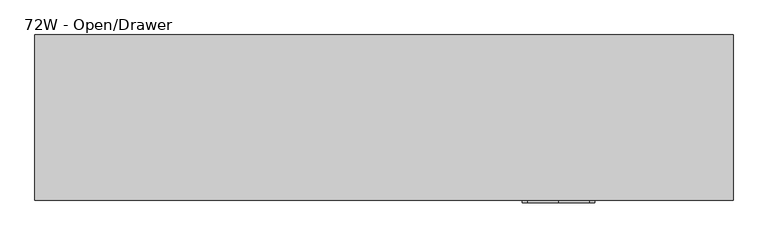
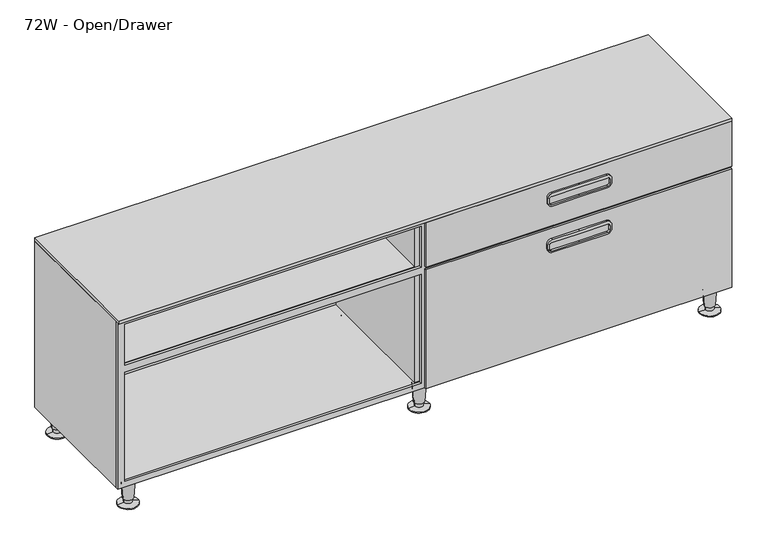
"""IFC4 building model written with IfcOpenShell, lengths in millimetres: furniture geometry, Steelcase - C Scape - Low Storage - 1.5 High - 60W and 72W : 72W - Open/Drawer."""

from ifc_helpers import new_model, si_unit, point, frame, frame_2d, origin, place, context, project, spatial, polyline, circle_curve, trimmed, segment, composite_curve, outline, extrude, faceted_brep, source, transform, mapped, element, save
from ifc_brep_helpers import plane_surface, cylinder_surface, revolved_surface, advanced_brep


def furniture_72w_open_drawer_6f4cbbca(model_context):
    return source(origin(), model_context, "Body", "SolidModel", [
        extrude(outline(polyline([(76.1508625, -305.435), (76.1508625, 1523.365), (599.4400097, 1523.365), (599.4400097, 609.532594), (599.4400097, -305.435), (76.1508625, -305.435)]), holes=[polyline([(92.7100024, 600.0410976), (92.7100024, -283.4617676), (436.8800097, -283.4617676), (436.8800097, 600.0410976), (92.7100024, 600.0410976)]), polyline([(588.9625, -283.4617676), (588.9625, 600.0410976), (458.7240097, 600.0410976), (458.7240097, -283.4617676), (588.9625, -283.4617676)]), polyline([(436.8800097, 617.8889024), (436.8800097, 1501.3917676), (92.7100024, 1501.3917676), (92.7100024, 617.8889024), (436.8800097, 617.8889024)]), polyline([(588.9625, 1501.3917676), (458.7240097, 1501.3917676), (458.7240097, 617.8889024), (588.9625, 617.8889024), (588.9625, 1501.3917676)])]), frame((0.0, -426.7186111, 0.0), z_axis=(0.0, 1.0, 0.0), x_axis=(0.0, 0.0, 1.0)), (0.0, 0.0, 1.0), 7.3648883),
        extrude(outline(polyline([(631.5075126, -9.525), (1501.3917676, -9.525), (1501.3917676, -415.2912402), (631.5075126, -415.2912402), (631.5075126, -9.525)])), frame((0.0, 0.0, 436.8800097), z_axis=(0.0, 0.0, 1.0), x_axis=(1.0, 0.0, 0.0)), (0.0, 0.0, 1.0), 21.844),
        extrude(outline(polyline([(586.4224874, -415.2912402), (-283.4617676, -415.2912402), (-283.4617676, -9.525), (586.4224874, -9.525), (586.4224874, -415.2912402)])), frame((0.0, 0.0, 436.8800097), z_axis=(0.0, 0.0, 1.0), x_axis=(1.0, 0.0, 0.0)), (0.0, 0.0, 1.0), 21.844),
        extrude(outline(composite_curve([segment(trimmed(circle_curve(frame_2d((406.3999879, 983.9320892)), 12.7), [point((419.0999879, 983.9320892))], [point((406.3999879, 971.2320892))], False, "CARTESIAN"), True, "CONTINUOUS"), segment(polyline([(406.3999879, 971.2320892), (391.795017, 971.2320892)]), True, "CONTINUOUS"), segment(trimmed(circle_curve(frame_2d((391.795017, 983.9320892)), 12.7), [point((391.795017, 971.2320892))], [point((379.095017, 983.9320892))], False, "CARTESIAN"), True, "CONTINUOUS"), segment(polyline([(379.095017, 983.9320892), (379.095017, 1066.164845), (379.095017, 1148.3976007)]), True, "CONTINUOUS"), segment(trimmed(circle_curve(frame_2d((391.795017, 1148.3976007)), 12.7), [point((379.095017, 1148.3976007))], [point((391.795017, 1161.0976007))], False, "CARTESIAN"), True, "CONTINUOUS"), segment(polyline([(391.795017, 1161.0976007), (406.3999879, 1161.0976007)]), True, "CONTINUOUS"), segment(trimmed(circle_curve(frame_2d((406.3999879, 1148.3976007)), 12.7), [point((406.3999879, 1161.0976007))], [point((419.0999879, 1148.3976007))], False, "CARTESIAN"), True, "CONTINUOUS"), segment(polyline([(419.0999879, 1148.3976007), (419.0999879, 1066.164845), (419.0999879, 983.9320892)]), True, "CONTINUOUS")], self_intersect=False), holes=[composite_curve([segment(trimmed(circle_curve(frame_2d((402.9710063, 982.4097015)), 6.35), [point((402.9710063, 976.0597015))], [point((409.3210063, 982.4097015))], True, "CARTESIAN"), True, "CONTINUOUS"), segment(polyline([(409.3210063, 982.4097015), (409.3210063, 1066.164845), (409.3210063, 1149.9199884)]), True, "CONTINUOUS"), segment(trimmed(circle_curve(frame_2d((402.9710063, 1149.9199884)), 6.35), [point((409.3210063, 1149.9199884))], [point((402.9710063, 1156.2699884))], True, "CARTESIAN"), True, "CONTINUOUS"), segment(polyline([(402.9710063, 1156.2699884), (390.2709942, 1156.2699884)]), True, "CONTINUOUS"), segment(trimmed(circle_curve(frame_2d((390.2709942, 1149.9199884)), 6.35), [point((390.2709942, 1156.2699884))], [point((383.9209942, 1149.9199884))], True, "CARTESIAN"), True, "CONTINUOUS"), segment(polyline([(383.9209942, 1149.9199884), (383.9209942, 1066.164845), (383.9209942, 982.4097015)]), True, "CONTINUOUS"), segment(trimmed(circle_curve(frame_2d((390.2709942, 982.4097015)), 6.35), [point((383.9209942, 982.4097015))], [point((390.2709942, 976.0597015))], True, "CARTESIAN"), True, "CONTINUOUS"), segment(polyline([(390.2709942, 976.0597015), (402.9710063, 976.0597015)]), True, "CONTINUOUS")], self_intersect=False)]), frame((0.0, -439.42, 0.0), z_axis=(0.0, 1.0, 0.0), x_axis=(0.0, 0.0, 1.0)), (0.0, 0.0, 1.0), 6.35),
        extrude(outline(polyline([(609.5996899, -426.7186111), (1522.73, -426.7186111), (1522.73, -433.07), (609.5996899, -433.07), (609.5996899, -426.7186111)])), frame((0.0, 0.0, 458.7240097), z_axis=(0.0, 0.0, 1.0), x_axis=(1.0, 0.0, 0.0)), (0.0, 0.0, 1.0), 140.716),
        faceted_brep([(-283.4617676, -419.3537227, 92.7100024), (1501.3917676, -419.3537227, 92.7100024), (1501.3917676, -9.525, 92.7100024), (631.5075126, -9.525, 92.7100024), (631.5075126, -415.2912402, 92.7100024), (586.4224874, -415.2912402, 92.7100024), (586.4224874, -9.525, 92.7100024), (-283.4617676, -9.525, 92.7100024), (1523.365, 0.0, 76.2), (1523.365, -419.3537227, 76.2), (-305.435, -419.3537227, 76.2), (-305.435, 0.0, 76.2), (-283.4630912, -419.3537227, 599.4400097), (-305.435, -419.3537227, 599.4400097), (1523.365, -419.3537227, 599.4400097), (1501.3917676, -419.3537227, 599.4400097), (-305.435, 0.0, 599.4400097), (1523.365, 0.0, 599.4400097), (-283.4630912, -9.525, 599.4400097), (586.4224874, -9.525, 599.4400097), (586.4224874, -415.2912402, 599.4400097), (631.5075126, -415.2912402, 599.4400097), (631.5075126, -9.525, 599.4400097), (1501.3917676, -9.525, 599.4400097)], [[[0, 1, 2, 3, 4, 5, 6, 7]], [[8, 9, 10, 11]], [[1, 0, 12, 13, 10, 9, 14, 15]], [[8, 11, 16, 17]], [[16, 13, 12, 18, 19, 20, 21, 22, 23, 15, 14, 17]], [[13, 16, 11, 10]], [[18, 12, 0, 7]], [[19, 18, 7, 6]], [[20, 19, 6, 5]], [[22, 21, 4, 3]], [[23, 22, 3, 2]], [[15, 23, 2, 1]], [[17, 14, 9, 8]], [[21, 20, 5, 4]]]),
        advanced_brep(
        [(579.8539515, -29.9489775, 0.0), (638.0760485, -38.8569507, 0.0), (608.965, -34.4029641, 0.0), (579.8539515, -29.9489775, 2.5119506), (638.0760485, -38.8569507, 2.5119506), (597.202835, -32.6033544, 5.7545598), (620.727165, -36.2025738, 5.7545598), (596.5140655, -32.4979728, 19.05), (621.4159345, -36.3079555, 19.05), (594.0844786, -32.1262463, 19.05), (623.8455214, -36.6796819, 19.05), (590.1341305, -31.5218435, 76.2), (627.7958695, -37.2840847, 76.2), (608.965, -34.4029641, 76.2)],
        [
            (0, 1, circle_curve(frame((608.965, -34.4029641, 0.0), z_axis=(0.0, 0.0, -1.0), x_axis=(0.0, -1.0, 0.0)), 29.4498071)),
            (1, 2),
            (2, 0),
            (1, 0, circle_curve(frame((608.965, -34.4029641, 0.0), z_axis=(0.0, 0.0, -1.0), x_axis=(0.0, -1.0, 0.0)), 29.4498071)),
            (3, 4, circle_curve(frame((608.965, -34.4029641, 2.5119506), z_axis=(0.0, 0.0, -1.0), x_axis=(0.0, -1.0, 0.0)), 29.4498071)),
            (4, 1),
            (0, 3),
            (4, 3, circle_curve(frame((608.965, -34.4029641, 2.5119506), z_axis=(0.0, 0.0, -1.0), x_axis=(0.0, -1.0, 0.0)), 29.4498071)),
            (5, 6, circle_curve(frame((608.965, -34.4029641, 5.7545598), z_axis=(0.0, 0.0, -1.0), x_axis=(0.0, -1.0, 0.0)), 11.8990387)),
            (6, 4),
            (3, 5),
            (6, 5, circle_curve(frame((608.965, -34.4029641, 5.7545598), z_axis=(0.0, 0.0, -1.0), x_axis=(0.0, -1.0, 0.0)), 11.8990387)),
            (7, 8, circle_curve(frame((608.965, -34.4029641, 19.05), z_axis=(0.0, 0.0, -1.0), x_axis=(0.0, -1.0, 0.0)), 12.5958232)),
            (8, 6),
            (5, 7),
            (8, 7, circle_curve(frame((608.965, -34.4029641, 19.05), z_axis=(0.0, 0.0, -1.0), x_axis=(0.0, -1.0, 0.0)), 12.5958232)),
            (9, 10, circle_curve(frame((608.965, -34.4029641, 19.05), z_axis=(0.0, 0.0, -1.0), x_axis=(0.0, -1.0, 0.0)), 15.0536827)),
            (10, 8),
            (7, 9),
            (10, 9, circle_curve(frame((608.965, -34.4029641, 19.05), z_axis=(0.0, 0.0, -1.0), x_axis=(0.0, -1.0, 0.0)), 15.0536827)),
            (11, 12, circle_curve(frame((608.965, -34.4029641, 76.2), z_axis=(0.0, 0.0, -1.0), x_axis=(0.0, -1.0, 0.0)), 19.05)),
            (12, 10),
            (9, 11),
            (12, 11, circle_curve(frame((608.965, -34.4029641, 76.2), z_axis=(0.0, 0.0, -1.0), x_axis=(0.0, -1.0, 0.0)), 19.05)),
            (13, 12),
            (11, 13),
        ],
        [
            plane_surface(frame((608.965, -34.4029641, 0.0), z_axis=(0.0, 0.0, -1.0), x_axis=(0.0, -1.0, 0.0))),
            cylinder_surface(frame((608.965, -34.4029641, 25.4), z_axis=(0.0, 0.0, 1.0), x_axis=(0.0, -1.0, 0.0)), 29.4498071),
            revolved_surface(polyline([(608.965, -63.8527712, 2.5119506), (608.965, -46.3020028, 5.7545598)]), (608.965, -34.4029641, 25.4), (0.0, 0.0, 1.0)),
            revolved_surface(polyline([(608.965, -46.3020028, 5.7545598), (608.965, -46.9987873, 19.05)]), (608.965, -34.4029641, 25.4), (0.0, 0.0, 1.0)),
            plane_surface(frame((608.965, -34.4029641, 19.05), z_axis=(0.0, 0.0, -1.0), x_axis=(0.0, -1.0, 0.0))),
            revolved_surface(polyline([(608.965, -49.4566468, 19.05), (608.965, -53.4529641, 76.2)]), (608.965, -34.4029641, 25.4), (0.0, 0.0, 1.0)),
            plane_surface(frame((608.965, -34.4029641, 76.2), z_axis=(0.0, 0.0, 1.0), x_axis=(0.0, -1.0, 0.0))),
        ],
        [
            (0, [[1, 2, 3]]),
            (0, [[4, -3, -2]]),
            (1, [[5, 6, -1, 7]]),
            (1, [[8, -7, -4, -6]]),
            (2, [[9, 10, -5, 11]]),
            (2, [[12, -11, -8, -10]]),
            (3, [[13, 14, -9, 15]]),
            (3, [[16, -15, -12, -14]]),
            (4, [[17, 18, -13, 19]]),
            (4, [[20, -19, -16, -18]]),
            (5, [[21, 22, -17, 23]]),
            (5, [[24, -23, -20, -22]]),
            (6, [[25, -21, 26]]),
            (6, [[-26, -24, -25]]),
        ],
    ),
        advanced_brep(
        [(579.8539515, -395.5974102, 0.0), (638.0760485, -404.5053834, 0.0), (608.965, -400.0513968, 0.0), (579.8539515, -395.5974102, 2.5119506), (638.0760485, -404.5053834, 2.5119506), (597.202835, -398.2517871, 5.7545598), (620.727165, -401.8510065, 5.7545598), (596.5140655, -398.1464055, 19.05), (621.4159345, -401.9563882, 19.05), (594.0844786, -397.774679, 19.05), (623.8455214, -402.3281146, 19.05), (590.1341305, -397.1702762, 76.2), (627.7958695, -402.9325174, 76.2), (608.965, -400.0513968, 76.2)],
        [
            (0, 1, circle_curve(frame((608.965, -400.0513968, 0.0), z_axis=(0.0, 0.0, -1.0), x_axis=(0.0, -1.0, 0.0)), 29.4498071)),
            (1, 2),
            (2, 0),
            (1, 0, circle_curve(frame((608.965, -400.0513968, 0.0), z_axis=(0.0, 0.0, -1.0), x_axis=(0.0, -1.0, 0.0)), 29.4498071)),
            (3, 4, circle_curve(frame((608.965, -400.0513968, 2.5119506), z_axis=(0.0, 0.0, -1.0), x_axis=(0.0, -1.0, 0.0)), 29.4498071)),
            (4, 1),
            (0, 3),
            (4, 3, circle_curve(frame((608.965, -400.0513968, 2.5119506), z_axis=(0.0, 0.0, -1.0), x_axis=(0.0, -1.0, 0.0)), 29.4498071)),
            (5, 6, circle_curve(frame((608.965, -400.0513968, 5.7545598), z_axis=(0.0, 0.0, -1.0), x_axis=(0.0, -1.0, 0.0)), 11.8990387)),
            (6, 4),
            (3, 5),
            (6, 5, circle_curve(frame((608.965, -400.0513968, 5.7545598), z_axis=(0.0, 0.0, -1.0), x_axis=(0.0, -1.0, 0.0)), 11.8990387)),
            (7, 8, circle_curve(frame((608.965, -400.0513968, 19.05), z_axis=(0.0, 0.0, -1.0), x_axis=(0.0, -1.0, 0.0)), 12.5958232)),
            (8, 6),
            (5, 7),
            (8, 7, circle_curve(frame((608.965, -400.0513968, 19.05), z_axis=(0.0, 0.0, -1.0), x_axis=(0.0, -1.0, 0.0)), 12.5958232)),
            (9, 10, circle_curve(frame((608.965, -400.0513968, 19.05), z_axis=(0.0, 0.0, -1.0), x_axis=(0.0, -1.0, 0.0)), 15.0536827)),
            (10, 8),
            (7, 9),
            (10, 9, circle_curve(frame((608.965, -400.0513968, 19.05), z_axis=(0.0, 0.0, -1.0), x_axis=(0.0, -1.0, 0.0)), 15.0536827)),
            (11, 12, circle_curve(frame((608.965, -400.0513968, 76.2), z_axis=(0.0, 0.0, -1.0), x_axis=(0.0, -1.0, 0.0)), 19.05)),
            (12, 10),
            (9, 11),
            (12, 11, circle_curve(frame((608.965, -400.0513968, 76.2), z_axis=(0.0, 0.0, -1.0), x_axis=(0.0, -1.0, 0.0)), 19.05)),
            (13, 12),
            (11, 13),
        ],
        [
            plane_surface(frame((608.965, -400.0513968, 0.0), z_axis=(0.0, 0.0, -1.0), x_axis=(0.0, -1.0, 0.0))),
            cylinder_surface(frame((608.965, -400.0513968, 25.4), z_axis=(0.0, 0.0, 1.0), x_axis=(0.0, -1.0, 0.0)), 29.4498071),
            revolved_surface(polyline([(608.965, -429.5012039, 2.5119506), (608.965, -411.9504355, 5.7545598)]), (608.965, -400.0513968, 25.4), (0.0, 0.0, 1.0)),
            revolved_surface(polyline([(608.965, -411.9504355, 5.7545598), (608.965, -412.64722, 19.05)]), (608.965, -400.0513968, 25.4), (0.0, 0.0, 1.0)),
            plane_surface(frame((608.965, -400.0513968, 19.05), z_axis=(0.0, 0.0, -1.0), x_axis=(0.0, -1.0, 0.0))),
            revolved_surface(polyline([(608.965, -415.1050795, 19.05), (608.965, -419.1013968, 76.2)]), (608.965, -400.0513968, 25.4), (0.0, 0.0, 1.0)),
            plane_surface(frame((608.965, -400.0513968, 76.2), z_axis=(0.0, 0.0, 1.0), x_axis=(0.0, -1.0, 0.0))),
        ],
        [
            (0, [[1, 2, 3]]),
            (0, [[4, -3, -2]]),
            (1, [[5, 6, -1, 7]]),
            (1, [[8, -7, -4, -6]]),
            (2, [[9, 10, -5, 11]]),
            (2, [[12, -11, -8, -10]]),
            (3, [[13, 14, -9, 15]]),
            (3, [[16, -15, -12, -14]]),
            (4, [[17, 18, -13, 19]]),
            (4, [[20, -19, -16, -18]]),
            (5, [[21, 22, -17, 23]]),
            (5, [[24, -23, -20, -22]]),
            (6, [[25, -21, 26]]),
            (6, [[-26, -24, -25]]),
        ],
    ),
        extrude(outline(composite_curve([segment(trimmed(circle_curve(frame_2d((552.4499879, 983.9320892)), 12.7), [point((565.1499879, 983.9320892))], [point((552.4499879, 971.2320892))], False, "CARTESIAN"), True, "CONTINUOUS"), segment(polyline([(552.4499879, 971.2320892), (537.845017, 971.2320892)]), True, "CONTINUOUS"), segment(trimmed(circle_curve(frame_2d((537.845017, 983.9320892)), 12.7), [point((537.845017, 971.2320892))], [point((525.145017, 983.9320892))], False, "CARTESIAN"), True, "CONTINUOUS"), segment(polyline([(525.145017, 983.9320892), (525.145017, 1066.164845), (525.145017, 1148.3976007)]), True, "CONTINUOUS"), segment(trimmed(circle_curve(frame_2d((537.845017, 1148.3976007)), 12.7), [point((525.145017, 1148.3976007))], [point((537.845017, 1161.0976007))], False, "CARTESIAN"), True, "CONTINUOUS"), segment(polyline([(537.845017, 1161.0976007), (552.4499879, 1161.0976007)]), True, "CONTINUOUS"), segment(trimmed(circle_curve(frame_2d((552.4499879, 1148.3976007)), 12.7), [point((552.4499879, 1161.0976007))], [point((565.1499879, 1148.3976007))], False, "CARTESIAN"), True, "CONTINUOUS"), segment(polyline([(565.1499879, 1148.3976007), (565.1499879, 1066.164845), (565.1499879, 983.9320892)]), True, "CONTINUOUS")], self_intersect=False), holes=[composite_curve([segment(trimmed(circle_curve(frame_2d((549.0210063, 982.4097015)), 6.35), [point((549.0210063, 976.0597015))], [point((555.3710063, 982.4097015))], True, "CARTESIAN"), True, "CONTINUOUS"), segment(polyline([(555.3710063, 982.4097015), (555.3710063, 1066.164845), (555.3710063, 1149.9199884)]), True, "CONTINUOUS"), segment(trimmed(circle_curve(frame_2d((549.0210063, 1149.9199884)), 6.35), [point((555.3710063, 1149.9199884))], [point((549.0210063, 1156.2699884))], True, "CARTESIAN"), True, "CONTINUOUS"), segment(polyline([(549.0210063, 1156.2699884), (536.3209942, 1156.2699884)]), True, "CONTINUOUS"), segment(trimmed(circle_curve(frame_2d((536.3209942, 1149.9199884)), 6.35), [point((536.3209942, 1156.2699884))], [point((529.9709942, 1149.9199884))], True, "CARTESIAN"), True, "CONTINUOUS"), segment(polyline([(529.9709942, 1149.9199884), (529.9709942, 1066.164845), (529.9709942, 982.4097015)]), True, "CONTINUOUS"), segment(trimmed(circle_curve(frame_2d((536.3209942, 982.4097015)), 6.35), [point((529.9709942, 982.4097015))], [point((536.3209942, 976.0597015))], True, "CARTESIAN"), True, "CONTINUOUS"), segment(polyline([(536.3209942, 976.0597015), (549.0210063, 976.0597015)]), True, "CONTINUOUS")], self_intersect=False)]), frame((0.0, -439.42, 0.0), z_axis=(0.0, 1.0, 0.0), x_axis=(0.0, 0.0, 1.0)), (0.0, 0.0, 1.0), 6.35),
        advanced_brep(
        [(1446.9075389, -29.9489775, 0.0), (1505.1296359, -38.8569507, 0.0), (1476.0185874, -34.4029641, 0.0), (1446.9075389, -29.9489775, 2.5119506), (1505.1296359, -38.8569507, 2.5119506), (1464.2564224, -32.6033544, 5.7545598), (1487.7807524, -36.2025738, 5.7545598), (1463.5676529, -32.4979728, 19.05), (1488.4695219, -36.3079555, 19.05), (1461.1380659, -32.1262463, 19.05), (1490.8991088, -36.6796819, 19.05), (1457.1877179, -31.5218435, 76.2), (1494.8494568, -37.2840847, 76.2), (1476.0185874, -34.4029641, 76.2)],
        [
            (0, 1, circle_curve(frame((1476.0185874, -34.4029641, 0.0), z_axis=(0.0, 0.0, -1.0), x_axis=(0.0, -1.0, 0.0)), 29.4498071)),
            (1, 2),
            (2, 0),
            (1, 0, circle_curve(frame((1476.0185874, -34.4029641, 0.0), z_axis=(0.0, 0.0, -1.0), x_axis=(0.0, -1.0, 0.0)), 29.4498071)),
            (3, 4, circle_curve(frame((1476.0185874, -34.4029641, 2.5119506), z_axis=(0.0, 0.0, -1.0), x_axis=(0.0, -1.0, 0.0)), 29.4498071)),
            (4, 1),
            (0, 3),
            (4, 3, circle_curve(frame((1476.0185874, -34.4029641, 2.5119506), z_axis=(0.0, 0.0, -1.0), x_axis=(0.0, -1.0, 0.0)), 29.4498071)),
            (5, 6, circle_curve(frame((1476.0185874, -34.4029641, 5.7545598), z_axis=(0.0, 0.0, -1.0), x_axis=(0.0, -1.0, 0.0)), 11.8990387)),
            (6, 4),
            (3, 5),
            (6, 5, circle_curve(frame((1476.0185874, -34.4029641, 5.7545598), z_axis=(0.0, 0.0, -1.0), x_axis=(0.0, -1.0, 0.0)), 11.8990387)),
            (7, 8, circle_curve(frame((1476.0185874, -34.4029641, 19.05), z_axis=(0.0, 0.0, -1.0), x_axis=(0.0, -1.0, 0.0)), 12.5958232)),
            (8, 6),
            (5, 7),
            (8, 7, circle_curve(frame((1476.0185874, -34.4029641, 19.05), z_axis=(0.0, 0.0, -1.0), x_axis=(0.0, -1.0, 0.0)), 12.5958232)),
            (9, 10, circle_curve(frame((1476.0185874, -34.4029641, 19.05), z_axis=(0.0, 0.0, -1.0), x_axis=(0.0, -1.0, 0.0)), 15.0536827)),
            (10, 8),
            (7, 9),
            (10, 9, circle_curve(frame((1476.0185874, -34.4029641, 19.05), z_axis=(0.0, 0.0, -1.0), x_axis=(0.0, -1.0, 0.0)), 15.0536827)),
            (11, 12, circle_curve(frame((1476.0185874, -34.4029641, 76.2), z_axis=(0.0, 0.0, -1.0), x_axis=(0.0, -1.0, 0.0)), 19.05)),
            (12, 10),
            (9, 11),
            (12, 11, circle_curve(frame((1476.0185874, -34.4029641, 76.2), z_axis=(0.0, 0.0, -1.0), x_axis=(0.0, -1.0, 0.0)), 19.05)),
            (13, 12),
            (11, 13),
        ],
        [
            plane_surface(frame((1476.0185874, -34.4029641, 0.0), z_axis=(0.0, 0.0, -1.0), x_axis=(0.0, -1.0, 0.0))),
            cylinder_surface(frame((1476.0185874, -34.4029641, 25.4), z_axis=(0.0, 0.0, 1.0), x_axis=(0.0, -1.0, 0.0)), 29.4498071),
            revolved_surface(polyline([(1476.0185874, -63.8527712, 2.5119506), (1476.0185874, -46.3020028, 5.7545598)]), (1476.0185874, -34.4029641, 25.4), (0.0, 0.0, 1.0)),
            revolved_surface(polyline([(1476.0185874, -46.3020028, 5.7545598), (1476.0185874, -46.9987873, 19.05)]), (1476.0185874, -34.4029641, 25.4), (0.0, 0.0, 1.0)),
            plane_surface(frame((1476.0185874, -34.4029641, 19.05), z_axis=(0.0, 0.0, -1.0), x_axis=(0.0, -1.0, 0.0))),
            revolved_surface(polyline([(1476.0185874, -49.4566468, 19.05), (1476.0185874, -53.4529641, 76.2)]), (1476.0185874, -34.4029641, 25.4), (0.0, 0.0, 1.0)),
            plane_surface(frame((1476.0185874, -34.4029641, 76.2), z_axis=(0.0, 0.0, 1.0), x_axis=(0.0, -1.0, 0.0))),
        ],
        [
            (0, [[1, 2, 3]]),
            (0, [[4, -3, -2]]),
            (1, [[5, 6, -1, 7]]),
            (1, [[8, -7, -4, -6]]),
            (2, [[9, 10, -5, 11]]),
            (2, [[12, -11, -8, -10]]),
            (3, [[13, 14, -9, 15]]),
            (3, [[16, -15, -12, -14]]),
            (4, [[17, 18, -13, 19]]),
            (4, [[20, -19, -16, -18]]),
            (5, [[21, 22, -17, 23]]),
            (5, [[24, -23, -20, -22]]),
            (6, [[25, -21, 26]]),
            (6, [[-26, -24, -25]]),
        ],
    ),
        advanced_brep(
        [(1446.9075389, -395.5974102, 0.0), (1505.1296359, -404.5053834, 0.0), (1476.0185874, -400.0513968, 0.0), (1446.9075389, -395.5974102, 2.5119506), (1505.1296359, -404.5053834, 2.5119506), (1464.2564224, -398.2517871, 5.7545598), (1487.7807524, -401.8510065, 5.7545598), (1463.5676529, -398.1464055, 19.05), (1488.4695219, -401.9563882, 19.05), (1461.1380659, -397.774679, 19.05), (1490.8991088, -402.3281146, 19.05), (1457.1877179, -397.1702762, 76.2), (1494.8494568, -402.9325174, 76.2), (1476.0185874, -400.0513968, 76.2)],
        [
            (0, 1, circle_curve(frame((1476.0185874, -400.0513968, 0.0), z_axis=(0.0, 0.0, -1.0), x_axis=(0.0, -1.0, 0.0)), 29.4498071)),
            (1, 2),
            (2, 0),
            (1, 0, circle_curve(frame((1476.0185874, -400.0513968, 0.0), z_axis=(0.0, 0.0, -1.0), x_axis=(0.0, -1.0, 0.0)), 29.4498071)),
            (3, 4, circle_curve(frame((1476.0185874, -400.0513968, 2.5119506), z_axis=(0.0, 0.0, -1.0), x_axis=(0.0, -1.0, 0.0)), 29.4498071)),
            (4, 1),
            (0, 3),
            (4, 3, circle_curve(frame((1476.0185874, -400.0513968, 2.5119506), z_axis=(0.0, 0.0, -1.0), x_axis=(0.0, -1.0, 0.0)), 29.4498071)),
            (5, 6, circle_curve(frame((1476.0185874, -400.0513968, 5.7545598), z_axis=(0.0, 0.0, -1.0), x_axis=(0.0, -1.0, 0.0)), 11.8990387)),
            (6, 4),
            (3, 5),
            (6, 5, circle_curve(frame((1476.0185874, -400.0513968, 5.7545598), z_axis=(0.0, 0.0, -1.0), x_axis=(0.0, -1.0, 0.0)), 11.8990387)),
            (7, 8, circle_curve(frame((1476.0185874, -400.0513968, 19.05), z_axis=(0.0, 0.0, -1.0), x_axis=(0.0, -1.0, 0.0)), 12.5958232)),
            (8, 6),
            (5, 7),
            (8, 7, circle_curve(frame((1476.0185874, -400.0513968, 19.05), z_axis=(0.0, 0.0, -1.0), x_axis=(0.0, -1.0, 0.0)), 12.5958232)),
            (9, 10, circle_curve(frame((1476.0185874, -400.0513968, 19.05), z_axis=(0.0, 0.0, -1.0), x_axis=(0.0, -1.0, 0.0)), 15.0536827)),
            (10, 8),
            (7, 9),
            (10, 9, circle_curve(frame((1476.0185874, -400.0513968, 19.05), z_axis=(0.0, 0.0, -1.0), x_axis=(0.0, -1.0, 0.0)), 15.0536827)),
            (11, 12, circle_curve(frame((1476.0185874, -400.0513968, 76.2), z_axis=(0.0, 0.0, -1.0), x_axis=(0.0, -1.0, 0.0)), 19.05)),
            (12, 10),
            (9, 11),
            (12, 11, circle_curve(frame((1476.0185874, -400.0513968, 76.2), z_axis=(0.0, 0.0, -1.0), x_axis=(0.0, -1.0, 0.0)), 19.05)),
            (13, 12),
            (11, 13),
        ],
        [
            plane_surface(frame((1476.0185874, -400.0513968, 0.0), z_axis=(0.0, 0.0, -1.0), x_axis=(0.0, -1.0, 0.0))),
            cylinder_surface(frame((1476.0185874, -400.0513968, 25.4), z_axis=(0.0, 0.0, 1.0), x_axis=(0.0, -1.0, 0.0)), 29.4498071),
            revolved_surface(polyline([(1476.0185874, -429.5012039, 2.5119506), (1476.0185874, -411.9504355, 5.7545598)]), (1476.0185874, -400.0513968, 25.4), (0.0, 0.0, 1.0)),
            revolved_surface(polyline([(1476.0185874, -411.9504355, 5.7545598), (1476.0185874, -412.64722, 19.05)]), (1476.0185874, -400.0513968, 25.4), (0.0, 0.0, 1.0)),
            plane_surface(frame((1476.0185874, -400.0513968, 19.05), z_axis=(0.0, 0.0, -1.0), x_axis=(0.0, -1.0, 0.0))),
            revolved_surface(polyline([(1476.0185874, -415.1050795, 19.05), (1476.0185874, -419.1013968, 76.2)]), (1476.0185874, -400.0513968, 25.4), (0.0, 0.0, 1.0)),
            plane_surface(frame((1476.0185874, -400.0513968, 76.2), z_axis=(0.0, 0.0, 1.0), x_axis=(0.0, -1.0, 0.0))),
        ],
        [
            (0, [[1, 2, 3]]),
            (0, [[4, -3, -2]]),
            (1, [[5, 6, -1, 7]]),
            (1, [[8, -7, -4, -6]]),
            (2, [[9, 10, -5, 11]]),
            (2, [[12, -11, -8, -10]]),
            (3, [[13, 14, -9, 15]]),
            (3, [[16, -15, -12, -14]]),
            (4, [[17, 18, -13, 19]]),
            (4, [[20, -19, -16, -18]]),
            (5, [[21, 22, -17, 23]]),
            (5, [[24, -23, -20, -22]]),
            (6, [[25, -21, 26]]),
            (6, [[-26, -24, -25]]),
        ],
    ),
        advanced_brep(
        [(-287.8113721, -395.5974102, 0.0), (-229.5892752, -404.5053834, 0.0), (-258.7003237, -400.0513968, 0.0), (-287.8113721, -395.5974102, 2.5119506), (-229.5892752, -404.5053834, 2.5119506), (-270.4624887, -398.2517871, 5.7545598), (-246.9381586, -401.8510065, 5.7545598), (-271.1512581, -398.1464055, 19.05), (-246.2493892, -401.9563882, 19.05), (-273.5808451, -397.774679, 19.05), (-243.8198022, -402.3281146, 19.05), (-277.5311931, -397.1702762, 76.2), (-239.8694542, -402.9325174, 76.2), (-258.7003237, -400.0513968, 76.2)],
        [
            (0, 1, circle_curve(frame((-258.7003237, -400.0513968, 0.0), z_axis=(0.0, 0.0, -1.0), x_axis=(0.0, -1.0, 0.0)), 29.4498071)),
            (1, 2),
            (2, 0),
            (1, 0, circle_curve(frame((-258.7003237, -400.0513968, 0.0), z_axis=(0.0, 0.0, -1.0), x_axis=(0.0, -1.0, 0.0)), 29.4498071)),
            (3, 4, circle_curve(frame((-258.7003237, -400.0513968, 2.5119506), z_axis=(0.0, 0.0, -1.0), x_axis=(0.0, -1.0, 0.0)), 29.4498071)),
            (4, 1),
            (0, 3),
            (4, 3, circle_curve(frame((-258.7003237, -400.0513968, 2.5119506), z_axis=(0.0, 0.0, -1.0), x_axis=(0.0, -1.0, 0.0)), 29.4498071)),
            (5, 6, circle_curve(frame((-258.7003237, -400.0513968, 5.7545598), z_axis=(0.0, 0.0, -1.0), x_axis=(0.0, -1.0, 0.0)), 11.8990387)),
            (6, 4),
            (3, 5),
            (6, 5, circle_curve(frame((-258.7003237, -400.0513968, 5.7545598), z_axis=(0.0, 0.0, -1.0), x_axis=(0.0, -1.0, 0.0)), 11.8990387)),
            (7, 8, circle_curve(frame((-258.7003237, -400.0513968, 19.05), z_axis=(0.0, 0.0, -1.0), x_axis=(0.0, -1.0, 0.0)), 12.5958232)),
            (8, 6),
            (5, 7),
            (8, 7, circle_curve(frame((-258.7003237, -400.0513968, 19.05), z_axis=(0.0, 0.0, -1.0), x_axis=(0.0, -1.0, 0.0)), 12.5958232)),
            (9, 10, circle_curve(frame((-258.7003237, -400.0513968, 19.05), z_axis=(0.0, 0.0, -1.0), x_axis=(0.0, -1.0, 0.0)), 15.0536827)),
            (10, 8),
            (7, 9),
            (10, 9, circle_curve(frame((-258.7003237, -400.0513968, 19.05), z_axis=(0.0, 0.0, -1.0), x_axis=(0.0, -1.0, 0.0)), 15.0536827)),
            (11, 12, circle_curve(frame((-258.7003237, -400.0513968, 76.2), z_axis=(0.0, 0.0, -1.0), x_axis=(0.0, -1.0, 0.0)), 19.05)),
            (12, 10),
            (9, 11),
            (12, 11, circle_curve(frame((-258.7003237, -400.0513968, 76.2), z_axis=(0.0, 0.0, -1.0), x_axis=(0.0, -1.0, 0.0)), 19.05)),
            (13, 12),
            (11, 13),
        ],
        [
            plane_surface(frame((-258.7003237, -400.0513968, 0.0), z_axis=(0.0, 0.0, -1.0), x_axis=(0.0, -1.0, 0.0))),
            cylinder_surface(frame((-258.7003237, -400.0513968, 25.4), z_axis=(0.0, 0.0, 1.0), x_axis=(0.0, -1.0, 0.0)), 29.4498071),
            revolved_surface(polyline([(-258.7003237, -429.5012039, 2.5119506), (-258.7003237, -411.9504355, 5.7545598)]), (-258.7003237, -400.0513968, 25.4), (0.0, 0.0, 1.0)),
            revolved_surface(polyline([(-258.7003237, -411.9504355, 5.7545598), (-258.7003237, -412.64722, 19.05)]), (-258.7003237, -400.0513968, 25.4), (0.0, 0.0, 1.0)),
            plane_surface(frame((-258.7003237, -400.0513968, 19.05), z_axis=(0.0, 0.0, -1.0), x_axis=(0.0, -1.0, 0.0))),
            revolved_surface(polyline([(-258.7003237, -415.1050795, 19.05), (-258.7003237, -419.1013968, 76.2)]), (-258.7003237, -400.0513968, 25.4), (0.0, 0.0, 1.0)),
            plane_surface(frame((-258.7003237, -400.0513968, 76.2), z_axis=(0.0, 0.0, 1.0), x_axis=(0.0, -1.0, 0.0))),
        ],
        [
            (0, [[1, 2, 3]]),
            (0, [[4, -3, -2]]),
            (1, [[5, 6, -1, 7]]),
            (1, [[8, -7, -4, -6]]),
            (2, [[9, 10, -5, 11]]),
            (2, [[12, -11, -8, -10]]),
            (3, [[13, 14, -9, 15]]),
            (3, [[16, -15, -12, -14]]),
            (4, [[17, 18, -13, 19]]),
            (4, [[20, -19, -16, -18]]),
            (5, [[21, 22, -17, 23]]),
            (5, [[24, -23, -20, -22]]),
            (6, [[25, -21, 26]]),
            (6, [[-26, -24, -25]]),
        ],
    ),
        advanced_brep(
        [(-287.8113721, -29.9489775, 0.0), (-229.5892752, -38.8569507, 0.0), (-258.7003237, -34.4029641, 0.0), (-287.8113721, -29.9489775, 2.5119506), (-229.5892752, -38.8569507, 2.5119506), (-270.4624887, -32.6033544, 5.7545598), (-246.9381586, -36.2025738, 5.7545598), (-271.1512581, -32.4979728, 19.05), (-246.2493892, -36.3079555, 19.05), (-273.5808451, -32.1262463, 19.05), (-243.8198022, -36.6796819, 19.05), (-277.5311931, -31.5218435, 76.2), (-239.8694542, -37.2840847, 76.2), (-258.7003237, -34.4029641, 76.2)],
        [
            (0, 1, circle_curve(frame((-258.7003237, -34.4029641, 0.0), z_axis=(0.0, 0.0, -1.0), x_axis=(0.0, -1.0, 0.0)), 29.4498071)),
            (1, 2),
            (2, 0),
            (1, 0, circle_curve(frame((-258.7003237, -34.4029641, 0.0), z_axis=(0.0, 0.0, -1.0), x_axis=(0.0, -1.0, 0.0)), 29.4498071)),
            (3, 4, circle_curve(frame((-258.7003237, -34.4029641, 2.5119506), z_axis=(0.0, 0.0, -1.0), x_axis=(0.0, -1.0, 0.0)), 29.4498071)),
            (4, 1),
            (0, 3),
            (4, 3, circle_curve(frame((-258.7003237, -34.4029641, 2.5119506), z_axis=(0.0, 0.0, -1.0), x_axis=(0.0, -1.0, 0.0)), 29.4498071)),
            (5, 6, circle_curve(frame((-258.7003237, -34.4029641, 5.7545598), z_axis=(0.0, 0.0, -1.0), x_axis=(0.0, -1.0, 0.0)), 11.8990387)),
            (6, 4),
            (3, 5),
            (6, 5, circle_curve(frame((-258.7003237, -34.4029641, 5.7545598), z_axis=(0.0, 0.0, -1.0), x_axis=(0.0, -1.0, 0.0)), 11.8990387)),
            (7, 8, circle_curve(frame((-258.7003237, -34.4029641, 19.05), z_axis=(0.0, 0.0, -1.0), x_axis=(0.0, -1.0, 0.0)), 12.5958232)),
            (8, 6),
            (5, 7),
            (8, 7, circle_curve(frame((-258.7003237, -34.4029641, 19.05), z_axis=(0.0, 0.0, -1.0), x_axis=(0.0, -1.0, 0.0)), 12.5958232)),
            (9, 10, circle_curve(frame((-258.7003237, -34.4029641, 19.05), z_axis=(0.0, 0.0, -1.0), x_axis=(0.0, -1.0, 0.0)), 15.0536827)),
            (10, 8),
            (7, 9),
            (10, 9, circle_curve(frame((-258.7003237, -34.4029641, 19.05), z_axis=(0.0, 0.0, -1.0), x_axis=(0.0, -1.0, 0.0)), 15.0536827)),
            (11, 12, circle_curve(frame((-258.7003237, -34.4029641, 76.2), z_axis=(0.0, 0.0, -1.0), x_axis=(0.0, -1.0, 0.0)), 19.05)),
            (12, 10),
            (9, 11),
            (12, 11, circle_curve(frame((-258.7003237, -34.4029641, 76.2), z_axis=(0.0, 0.0, -1.0), x_axis=(0.0, -1.0, 0.0)), 19.05)),
            (13, 12),
            (11, 13),
        ],
        [
            plane_surface(frame((-258.7003237, -34.4029641, 0.0), z_axis=(0.0, 0.0, -1.0), x_axis=(0.0, -1.0, 0.0))),
            cylinder_surface(frame((-258.7003237, -34.4029641, 25.4), z_axis=(0.0, 0.0, 1.0), x_axis=(0.0, -1.0, 0.0)), 29.4498071),
            revolved_surface(polyline([(-258.7003237, -63.8527712, 2.5119506), (-258.7003237, -46.3020028, 5.7545598)]), (-258.7003237, -34.4029641, 25.4), (0.0, 0.0, 1.0)),
            revolved_surface(polyline([(-258.7003237, -46.3020028, 5.7545598), (-258.7003237, -46.9987873, 19.05)]), (-258.7003237, -34.4029641, 25.4), (0.0, 0.0, 1.0)),
            plane_surface(frame((-258.7003237, -34.4029641, 19.05), z_axis=(0.0, 0.0, -1.0), x_axis=(0.0, -1.0, 0.0))),
            revolved_surface(polyline([(-258.7003237, -49.4566468, 19.05), (-258.7003237, -53.4529641, 76.2)]), (-258.7003237, -34.4029641, 25.4), (0.0, 0.0, 1.0)),
            plane_surface(frame((-258.7003237, -34.4029641, 76.2), z_axis=(0.0, 0.0, 1.0), x_axis=(0.0, -1.0, 0.0))),
        ],
        [
            (0, [[1, 2, 3]]),
            (0, [[4, -3, -2]]),
            (1, [[5, 6, -1, 7]]),
            (1, [[8, -7, -4, -6]]),
            (2, [[9, 10, -5, 11]]),
            (2, [[12, -11, -8, -10]]),
            (3, [[13, 14, -9, 15]]),
            (3, [[16, -15, -12, -14]]),
            (4, [[17, 18, -13, 19]]),
            (4, [[20, -19, -16, -18]]),
            (5, [[21, 22, -17, 23]]),
            (5, [[24, -23, -20, -22]]),
            (6, [[25, -21, 26]]),
            (6, [[-26, -24, -25]]),
        ],
    ),
        extrude(outline(polyline([(609.5996899, -426.7186111), (1522.73, -426.7186111), (1522.73, -433.07), (609.5996899, -433.07), (609.5996899, -426.7186111)])), frame((0.0, 0.0, 76.2), z_axis=(0.0, 0.0, 1.0), x_axis=(1.0, 0.0, 0.0)), (0.0, 0.0, 1.0), 374.6500097),
        extrude(outline(polyline([(-305.435, 0.0), (1523.365, 0.0), (1523.365, -433.07), (-305.435, -433.07), (-305.435, 0.0)])), frame((0.0, 0.0, 599.4400097), z_axis=(0.0, 0.0, 1.0), x_axis=(1.0, 0.0, 0.0)), (0.0, 0.0, 1.0), 10.1599903),
    ])


if __name__ == "__main__":
    model = new_model("IFC4")
    model_context = context("Model", 3, world=origin())
    ifc_project = project(units=[si_unit("LENGTHUNIT", "METRE", prefix="MILLI")], contexts=[model_context])
    site = spatial("IfcSite", under=ifc_project)
    building = spatial("IfcBuilding", under=site)
    placement = place(None, origin())
    furniture_72w_open_drawer_shape = furniture_72w_open_drawer_6f4cbbca(model_context)
    element("IfcFurniture", 1, ObjectType="Steelcase - C Scape - Low Storage - 1.5 High - 60W and 72W : 72W - Open/Drawer", at=placement, inside=building, context=model_context, shape_type="MappedRepresentation", body=[
        mapped(furniture_72w_open_drawer_shape, transform((0.0, 0.0, 0.0), x_axis=(1.0, 0.0, 0.0), y_axis=(0.0, 1.0, 0.0), z_axis=(0.0, 0.0, 1.0))),
    ])
    save(model, "model.ifc")
